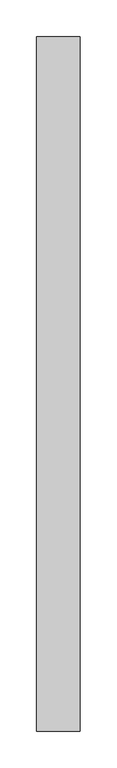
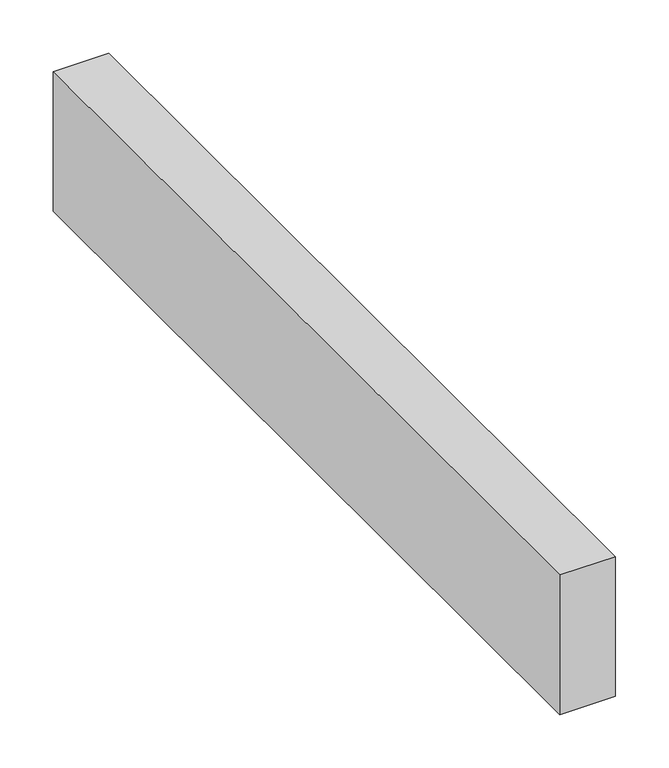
"""IFC4 building model written with IfcOpenShell, lengths in millimetres: proxy geometry, Modelos genéricos 32 : Modelos genéricos 9."""

from ifc_helpers import new_model, si_unit, frame, origin, place, context, project, spatial, polyline, outline, extrude, source, transform, mapped, element, save


def generic_models_d7ae4c8c(model_context):
    return source(origin(), model_context, "Body", "SweptSolid", [
        extrude(outline(polyline([(-8906.5527533, 2418.6238165), (-8906.5527533, 1468.6238165), (-8966.5527533, 1468.6238165), (-8966.5527533, 2418.6238165), (-8906.5527533, 2418.6238165)])), frame((0.0, 0.0, 3000.0), z_axis=(0.0, 0.0, 1.0), x_axis=(1.0, 0.0, 0.0)), (0.0, 0.0, 1.0), 160.0),
    ])


if __name__ == "__main__":
    model = new_model("IFC4")
    model_context = context("Model", 3, world=origin())
    ifc_project = project(units=[si_unit("LENGTHUNIT", "METRE", prefix="MILLI")], contexts=[model_context])
    site = spatial("IfcSite", under=ifc_project)
    building = spatial("IfcBuilding", under=site)
    placement = place(None, origin())
    generic_models_shape = generic_models_d7ae4c8c(model_context)
    element("IfcBuildingElementProxy", 1, Name="Modelos genéricos 32 : Modelos genéricos 9", ObjectType="Modelos genéricos 32 : Modelos genéricos 9", at=placement, inside=building, context=model_context, shape_type="MappedRepresentation", body=[
        mapped(generic_models_shape, transform((0.0, 0.0, 0.0), x_axis=(1.0, 0.0, 0.0), y_axis=(0.0, 1.0, 0.0), z_axis=(0.0, 0.0, 1.0))),
    ])
    save(model, "model.ifc")
